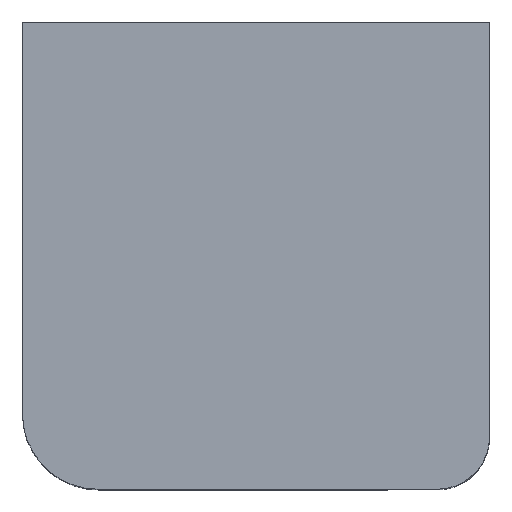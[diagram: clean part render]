
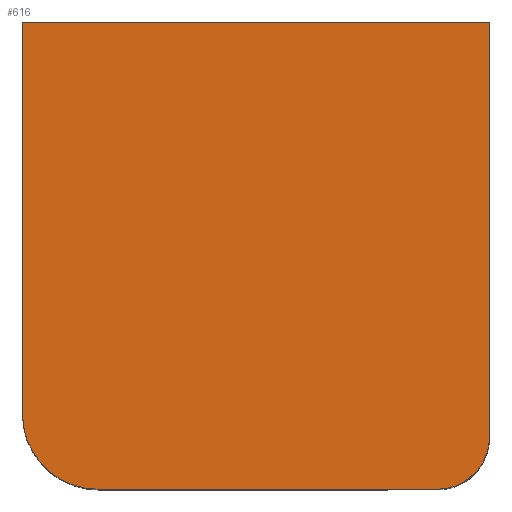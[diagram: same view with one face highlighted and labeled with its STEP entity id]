
A CAD part, top view. The second image highlights one B-rep face of the part: STEP entity #616.
In plain terms, the highlighted planar face has unit normal (0, 0, 1).
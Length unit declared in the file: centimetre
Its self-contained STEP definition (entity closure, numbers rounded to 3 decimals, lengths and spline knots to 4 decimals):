
#4 = AXIS2_PLACEMENT_3D ( 'NONE', #625, #390, #976 ) ;
#17 = CARTESIAN_POINT ( 'NONE',  ( 1000., 111.8796, 1000. ) ) ;
#20 = EDGE_CURVE ( 'NONE', #126, #571, #496, .T. ) ;
#38 = CARTESIAN_POINT ( 'NONE',  ( 0., 0., 1000. ) ) ;
#59 = LINE ( 'NONE', #62, #69 ) ;
#61 = DIRECTION ( 'NONE',  ( 1., 0., 0. ) ) ;
#62 = CARTESIAN_POINT ( 'NONE',  ( 0., 1000., 1000. ) ) ;
#69 = VECTOR ( 'NONE', #969, 100. ) ;
#82 = EDGE_CURVE ( 'NONE', #571, #89, #337, .T. ) ;
#89 = VERTEX_POINT ( 'NONE', #17 ) ;
#126 = VERTEX_POINT ( 'NONE', #270 ) ;
#130 = EDGE_LOOP ( 'NONE', ( #867, #961, #206, #914, #541, #629 ) ) ;
#179 = DIRECTION ( 'NONE',  ( 1., 0., 0. ) ) ;
#206 = ORIENTED_EDGE ( 'NONE', *, *, #20, .T. ) ;
#210 = VECTOR ( 'NONE', #860, 100. ) ;
#218 = PLANE ( 'NONE',  #718 ) ;
#221 = CARTESIAN_POINT ( 'NONE',  ( 888.1204, 0., 1000. ) ) ;
#270 = CARTESIAN_POINT ( 'NONE',  ( 161.8437, 0., 1000. ) ) ;
#274 = EDGE_CURVE ( 'NONE', #863, #617, #59, .T. ) ;
#303 = VERTEX_POINT ( 'NONE', #821 ) ;
#337 = CIRCLE ( 'NONE', #838, 111.8796 ) ;
#339 = VECTOR ( 'NONE', #507, 100. ) ;
#390 = DIRECTION ( 'NONE',  ( 0., 0., 1. ) ) ;
#396 = DIRECTION ( 'NONE',  ( 0., 0., 1. ) ) ;
#401 = CARTESIAN_POINT ( 'NONE',  ( 1000., 1000., 1000. ) ) ;
#442 = DIRECTION ( 'NONE',  ( 0., 0., 1. ) ) ;
#473 = EDGE_CURVE ( 'NONE', #303, #126, #519, .T. ) ;
#496 = LINE ( 'NONE', #38, #210 ) ;
#507 = DIRECTION ( 'NONE',  ( 0., -1., 0. ) ) ;
#516 = CARTESIAN_POINT ( 'NONE',  ( 0., 0., 1000. ) ) ;
#519 = CIRCLE ( 'NONE', #4, 161.8437 ) ;
#521 = CARTESIAN_POINT ( 'NONE',  ( 0., 1000., 1000. ) ) ;
#541 = ORIENTED_EDGE ( 'NONE', *, *, #823, .T. ) ;
#552 = VECTOR ( 'NONE', #859, 100. ) ;
#571 = VERTEX_POINT ( 'NONE', #221 ) ;
#582 = EDGE_CURVE ( 'NONE', #617, #303, #879, .T. ) ;
#596 = FACE_OUTER_BOUND ( 'NONE', #130, .T. ) ;
#616 = ADVANCED_FACE ( 'NONE', ( #596 ), #218, .T. ) ;
#617 = VERTEX_POINT ( 'NONE', #521 ) ;
#625 = CARTESIAN_POINT ( 'NONE',  ( 161.8437, 161.8437, 1000. ) ) ;
#629 = ORIENTED_EDGE ( 'NONE', *, *, #274, .T. ) ;
#658 = CARTESIAN_POINT ( 'NONE',  ( 0., 1000., 1000. ) ) ;
#718 = AXIS2_PLACEMENT_3D ( 'NONE', #516, #442, #61 ) ;
#727 = CARTESIAN_POINT ( 'NONE',  ( 1000., 1000., 1000. ) ) ;
#821 = CARTESIAN_POINT ( 'NONE',  ( 0., 161.8437, 1000. ) ) ;
#823 = EDGE_CURVE ( 'NONE', #89, #863, #913, .T. ) ;
#838 = AXIS2_PLACEMENT_3D ( 'NONE', #855, #396, #179 ) ;
#855 = CARTESIAN_POINT ( 'NONE',  ( 888.1204, 111.8796, 1000. ) ) ;
#859 = DIRECTION ( 'NONE',  ( 0., 1., 0. ) ) ;
#860 = DIRECTION ( 'NONE',  ( 1., 0., 0. ) ) ;
#863 = VERTEX_POINT ( 'NONE', #727 ) ;
#867 = ORIENTED_EDGE ( 'NONE', *, *, #582, .T. ) ;
#879 = LINE ( 'NONE', #658, #339 ) ;
#913 = LINE ( 'NONE', #401, #552 ) ;
#914 = ORIENTED_EDGE ( 'NONE', *, *, #82, .T. ) ;
#961 = ORIENTED_EDGE ( 'NONE', *, *, #473, .T. ) ;
#969 = DIRECTION ( 'NONE',  ( -1., 0., 0. ) ) ;
#976 = DIRECTION ( 'NONE',  ( 1., 0., 0. ) ) ;
